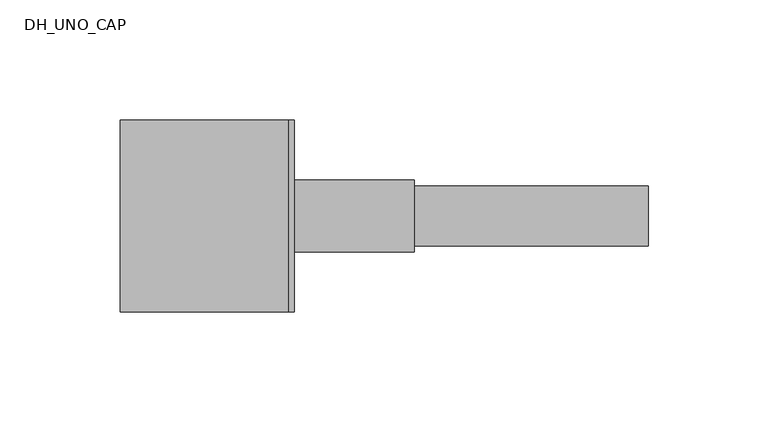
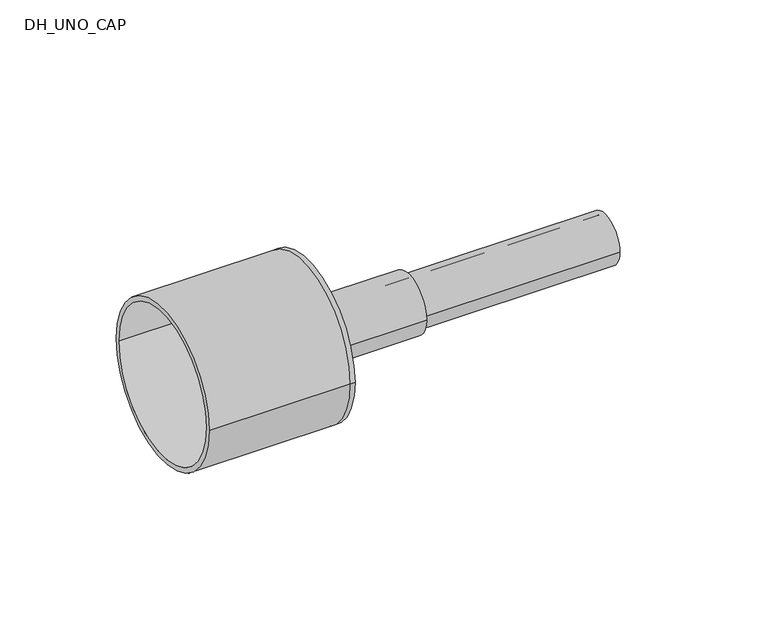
"""IFC4 building model written with IfcOpenShell, lengths in millimetres: pipe fitting geometry, DH_UNO_CAP : INSULPEX UNO 11 COOL - Rubber Cap."""

import ifcopenshell
import ifcopenshell.guid

model = None  # the IFC model being written
_history = None  # IfcOwnerHistory: only IFC2X3 demands one
_inside = {}  # id of a spatial element -> (the spatial element, [elements in it])
_under = {}  # id of a project, library or spatial element -> (it, [spatial elements below it])
_declared = {}  # id of a project -> (the project, [libraries it declares])
_typed = {}  # id of a type object -> (the type object, [elements of that type])
_made_of = {}  # id of a material, layer set ... -> (it, [elements and type objects made of it])


def new_model(schema):
    """Start an empty IFC model of exactly this schema.

    Asked for "IFC4X3", IfcOpenShell would pick the latest addendum, in which some entities
    have other attributes; the version numbers below select the first issue.
    IFC2X3 requires an IfcOwnerHistory on every rooted entity: one is made here for all.
    """
    global model, _history
    if schema == "IFC4X3":
        model = ifcopenshell.file(schema_version=(4, 3, 0, 0))
    else:
        model = ifcopenshell.file(schema=schema)
    _inside.clear()
    _under.clear()
    _declared.clear()
    _typed.clear()
    _made_of.clear()
    _history = None
    if model.schema == "IFC2X3":
        org = make("IfcOrganization", Name="unknown")
        user = make(
            "IfcPersonAndOrganization",
            ThePerson=make("IfcPerson", FamilyName="unknown"),
            TheOrganization=org,
        )
        app = make(
            "IfcApplication",
            ApplicationDeveloper=org,
            Version="unknown",
            ApplicationFullName="unknown",
            ApplicationIdentifier="unknown",
        )
        _history = make(
            "IfcOwnerHistory",
            OwningUser=user,
            OwningApplication=app,
            ChangeAction="ADDED",
            CreationDate=0,
        )
    return model


def make(cls, **values):
    """One entity of the class cls with the attributes given. An attribute that is None is left unset."""
    return model.create_entity(
        cls, **{name: value for name, value in values.items() if value is not None}
    )


def rooted(cls, **values):
    """An entity with a GlobalId (a new one), such as an element, a storey or a relation."""
    return make(cls, GlobalId=ifcopenshell.guid.new(), OwnerHistory=_history, **values)


def si_unit(unit_type, name, prefix=None):
    """IfcSIUnit, for example si_unit("LENGTHUNIT", "METRE", prefix="MILLI")."""
    return make("IfcSIUnit", UnitType=unit_type, Prefix=prefix, Name=name)


def assignment(units):
    """IfcUnitAssignment: the units of a project."""
    return None if units is None else make("IfcUnitAssignment", Units=units)


def point(xyz):
    """IfcCartesianPoint."""
    return None if xyz is None else make("IfcCartesianPoint", Coordinates=xyz)


def direction(xyz):
    """IfcDirection."""
    return None if xyz is None else make("IfcDirection", DirectionRatios=xyz)


def frame(location, z_axis=None, x_axis=None):
    """IfcAxis2Placement3D, a coordinate frame: its origin and axes. An axis left out is left unset."""
    return make(
        "IfcAxis2Placement3D",
        Location=point(location),
        Axis=direction(z_axis),
        RefDirection=direction(x_axis),
    )


def frame_2d(location, x_axis=None):
    """IfcAxis2Placement2D, a coordinate frame in the plane: its origin and x axis."""
    return make(
        "IfcAxis2Placement2D", Location=point(location), RefDirection=direction(x_axis)
    )


def origin():
    """The frame at (0, 0, 0) with its axes left unset."""
    return frame((0.0, 0.0, 0.0))


def origin_2d():
    """The frame at (0, 0) in the plane with its x axis left unset."""
    return frame_2d((0.0, 0.0))


def place(relative_to, where):
    """IfcLocalPlacement: puts the frame where relative to a parent placement (None: the world)."""
    return make(
        "IfcLocalPlacement", PlacementRelTo=relative_to, RelativePlacement=where
    )


def context(
    kind, dimensions, precision=None, world=None, true_north=None, identifier=None
):
    """IfcGeometricRepresentationContext, for example the 3D "Model" context."""
    return make(
        "IfcGeometricRepresentationContext",
        ContextIdentifier=identifier,
        ContextType=kind,
        CoordinateSpaceDimension=dimensions,
        Precision=precision,
        WorldCoordinateSystem=world,
        TrueNorth=true_north,
    )


def project(units=None, contexts=None):
    """IfcProject with its units and contexts."""
    return rooted(
        "IfcProject",
        Name="project",
        RepresentationContexts=contexts,
        UnitsInContext=assignment(units),
    )


def spatial(cls, under=None, at=None, **own):
    """A site, building, storey or space (cls), placed at a placement, below another one or the project."""
    s = rooted(cls, ObjectPlacement=at, **own)
    if under is not None:
        _under.setdefault(under.id(), (under, []))[1].append(s)
    return s


def polyline(points):
    """IfcPolyline through the points."""
    return make("IfcPolyline", Points=[point(p) for p in points])


def circle_curve(where, radius):
    """IfcCircle in the frame where."""
    return make("IfcCircle", Position=where, Radius=radius)


def trimmed(basis, trim1, trim2, sense, master):
    """IfcTrimmedCurve: the piece of a basis curve between two trims."""
    return make(
        "IfcTrimmedCurve",
        BasisCurve=basis,
        Trim1=trim1,
        Trim2=trim2,
        SenseAgreement=sense,
        MasterRepresentation=master,
    )


def segment(curve, same_sense, transition):
    """IfcCompositeCurveSegment."""
    return make(
        "IfcCompositeCurveSegment",
        Transition=transition,
        SameSense=same_sense,
        ParentCurve=curve,
    )


def composite_curve(segments, self_intersect=None):
    """IfcCompositeCurve: segments joined end to end."""
    return make("IfcCompositeCurve", Segments=segments, SelfIntersect=self_intersect)


def outline(outer, holes=None, kind="AREA"):
    """IfcArbitraryClosedProfileDef: a profile drawn as a closed curve; with holes, ...WithVoids."""
    if holes is None:
        return make("IfcArbitraryClosedProfileDef", ProfileType=kind, OuterCurve=outer)
    return make(
        "IfcArbitraryProfileDefWithVoids",
        ProfileType=kind,
        OuterCurve=outer,
        InnerCurves=holes,
    )


def extrude(swept, where, along, depth):
    """IfcExtrudedAreaSolid: the profile swept, set in the frame where, extruded along a direction by depth."""
    return make(
        "IfcExtrudedAreaSolid",
        SweptArea=swept,
        Position=where,
        ExtrudedDirection=direction(along),
        Depth=depth,
    )


def shape(context_of_items, identifier, shape_type, items):
    """IfcShapeRepresentation: the items that make up one representation, for example the "Body"."""
    return make(
        "IfcShapeRepresentation",
        ContextOfItems=context_of_items,
        RepresentationIdentifier=identifier,
        RepresentationType=shape_type,
        Items=items,
    )


def source(mapping_origin, context_of_items, identifier, shape_type, items):
    """IfcRepresentationMap: a shape defined once, which mapped items show again and again."""
    return make(
        "IfcRepresentationMap",
        MappingOrigin=mapping_origin,
        MappedRepresentation=shape(context_of_items, identifier, shape_type, items),
    )


def transform(
    local_origin,
    x_axis=None,
    y_axis=None,
    z_axis=None,
    scale=None,
    scale2=None,
    scale3=None,
    uniform=True,
):
    """IfcCartesianTransformationOperator3D, or its non-uniform kind. x_axis, y_axis, z_axis: its Axis1, 2, 3."""
    if uniform:
        return make(
            "IfcCartesianTransformationOperator3D",
            Axis1=direction(x_axis),
            Axis2=direction(y_axis),
            LocalOrigin=point(local_origin),
            Scale=scale,
            Axis3=direction(z_axis),
        )
    return make(
        "IfcCartesianTransformationOperator3DnonUniform",
        Axis1=direction(x_axis),
        Axis2=direction(y_axis),
        LocalOrigin=point(local_origin),
        Scale=scale,
        Axis3=direction(z_axis),
        Scale2=scale2,
        Scale3=scale3,
    )


def mapped(mapping_source, mapping_target):
    """IfcMappedItem: shows the shape of a source again, moved by a transform."""
    return make(
        "IfcMappedItem", MappingSource=mapping_source, MappingTarget=mapping_target
    )


def made_of(thing, what):
    """Note that an element or type object is made of a material, layer set ...; save() writes the relation."""
    if what is not None:
        _made_of.setdefault(what.id(), (what, []))[1].append(thing)
    return thing


def element(
    cls,
    number,
    at=None,
    inside=None,
    cuts=None,
    type_object=None,
    material=None,
    context=None,
    identifier="Body",
    shape_type=None,
    held_by="IfcProductDefinitionShape",
    body=None,
    shapes=None,
    **own,
):
    """One element of the class cls, such as IfcWall. Its Tag is "e" and its number.

    at: its placement. inside: the storey or other place that contains it. cuts: it is an
    opening in that element (IfcRelVoidsElement). A single representation is given by context,
    identifier, shape_type and body (its items); several are given by shapes. held_by: the class
    of the entity that holds the representations. save() writes the other relations.
    """
    e = rooted(cls, Tag="e%d" % number, ObjectPlacement=at, **own)
    if body is not None:
        shapes = [shape(context, identifier, shape_type, body)]
    if shapes is not None:
        e.Representation = make(held_by, Representations=shapes)
    if inside is not None:
        _inside.setdefault(inside.id(), (inside, []))[1].append(e)
    if cuts is not None:
        rooted(
            "IfcRelVoidsElement", RelatingBuildingElement=cuts, RelatedOpeningElement=e
        )
    if type_object is not None:
        _typed.setdefault(type_object.id(), (type_object, []))[1].append(e)
    return made_of(e, material)


def aggregate(whole, parts):
    """IfcRelAggregates: a whole, such as a stair, and the parts it consists of."""
    return rooted("IfcRelAggregates", RelatingObject=whole, RelatedObjects=parts)


def save(model, path):
    """Write the relations noted so far, then the file.

    IfcRelAggregates (storeys below a building ...), IfcRelContainedInSpatialStructure (elements
    in a storey), IfcRelDefinesByType, IfcRelAssociatesMaterial and IfcRelDeclares: one each for
    every whole, place, type object, material and project.
    """
    for whole, parts in _under.values():
        aggregate(whole, parts)
    for where, things in _inside.values():
        rooted(
            "IfcRelContainedInSpatialStructure",
            RelatedElements=things,
            RelatingStructure=where,
        )
    for kind, things in _typed.values():
        rooted("IfcRelDefinesByType", RelatedObjects=things, RelatingType=kind)
    for what, things in _made_of.values():
        rooted("IfcRelAssociatesMaterial", RelatedObjects=things, RelatingMaterial=what)
    for by, libraries in _declared.values():
        rooted("IfcRelDeclares", RelatingContext=by, RelatedDefinitions=libraries)
    model.write(path)


def plane_surface(at):
    """IfcPlane: the flat surface through the origin of the frame at, square to its z axis."""
    return make("IfcPlane", Position=at)


def cylinder_surface(at, radius):
    """IfcCylindricalSurface: all points at the distance radius from the z axis of the frame at."""
    return make("IfcCylindricalSurface", Position=at, Radius=radius)


def revolved_surface(curve, axis_point, axis_direction):
    """IfcSurfaceOfRevolution: the curve turned about the line through axis_point along axis_direction."""
    return make(
        "IfcSurfaceOfRevolution",
        SweptCurve=make("IfcArbitraryOpenProfileDef", ProfileType="CURVE", Curve=curve),
        AxisPosition=make("IfcAxis1Placement", Location=point(axis_point), Axis=direction(axis_direction)),
    )


def advanced_brep(points, edges, surfaces, faces):
    """IfcAdvancedBrep: a solid bounded by faces that lie on surfaces and meet in shared edges.

    An edge is (start, end): straight between two places in points (the first is 0);
    or (start, end, curve); or (start, end, curve, False) where it runs against its curve.
    A face is (place in surfaces, loops), or (place, loops, False) where it looks against
    its surface's normal. A loop lists edges by number (the first is 1), with a minus sign
    where the edge is run from its end to its start. The first loop is the outer one.
    """
    corners = [point(p) for p in points]
    vertices = [make("IfcVertexPoint", VertexGeometry=c) for c in corners]
    made = []
    for start, end, *more in edges:
        made.append(
            make(
                "IfcEdgeCurve",
                EdgeStart=vertices[start],
                EdgeEnd=vertices[end],
                EdgeGeometry=more[0] if more else make("IfcPolyline", Points=[corners[start], corners[end]]),
                SameSense=more[1] if len(more) > 1 else True,
            )
        )
    hull = []
    for where, loops, *sense in faces:
        bounds = []
        for j, loop in enumerate(loops):
            ring = [make("IfcOrientedEdge", EdgeElement=made[abs(k) - 1], Orientation=k > 0) for k in loop]
            bounds.append(
                make(
                    "IfcFaceOuterBound" if j == 0 else "IfcFaceBound",
                    Bound=make("IfcEdgeLoop", EdgeList=ring),
                    Orientation=True,
                )
            )
        hull.append(make("IfcAdvancedFace", Bounds=bounds, FaceSurface=surfaces[where], SameSense=sense[0] if sense else True))
    return make("IfcAdvancedBrep", Outer=make("IfcClosedShell", CfsFaces=hull))


def dh_uno_cap_0b3657b0(model_context):
    return source(origin(), model_context, "Body", "SolidModel", [
        extrude(outline(composite_curve([segment(trimmed(circle_curve(origin_2d(), 12.5), [point((-12.5, 0.0))], [point((12.5, 0.0))], False, "CARTESIAN"), True, "CONTINUOUS"), segment(trimmed(circle_curve(origin_2d(), 12.5), [point((12.5, 0.0))], [point((-12.5, 0.0))], False, "CARTESIAN"), True, "CONTINUOUS")], self_intersect=False), holes=[composite_curve([segment(trimmed(circle_curve(origin_2d(), 10.2), [point((-10.2, 0.0))], [point((10.2, 0.0))], True, "CARTESIAN"), True, "CONTINUOUS"), segment(trimmed(circle_curve(origin_2d(), 10.2), [point((10.2, 0.0))], [point((-10.2, 0.0))], True, "CARTESIAN"), True, "CONTINUOUS")], self_intersect=False)]), frame((0.0, 0.0, 0.0), z_axis=(1.0, 0.0, 0.0), x_axis=(0.0, 1.0, 0.0)), (0.0, 0.0, 1.0), 150.0),
        advanced_brep(
        [(-70.0, -40.0, 0.0), (-70.0, 40.0, 0.0), (-70.0, -37.5, 0.0), (-70.0, 37.5, 0.0), (0.0, -37.5, 0.0), (0.0, 37.5, 0.0), (0.0, -40.0, 0.0), (0.0, 40.0, 0.0), (0.0, 12.5, 0.0), (0.0, -12.5, 0.0), (2.5, -40.0, 0.0), (2.5, 40.0, 0.0), (2.5, -12.5, 0.0), (2.5, 12.5, 0.0)],
        [
            (0, 1, circle_curve(frame((-70.0, 0.0, 0.0), z_axis=(-1.0, 0.0, 0.0), x_axis=(0.0, 1.0, 0.0)), 40.0)),
            (1, 0, circle_curve(frame((-70.0, 0.0, 0.0), z_axis=(-1.0, 0.0, 0.0), x_axis=(0.0, 1.0, 0.0)), 40.0)),
            (2, 3, circle_curve(frame((-70.0, 0.0, 0.0), z_axis=(1.0, 0.0, 0.0), x_axis=(0.0, 1.0, 0.0)), 37.5)),
            (3, 2, circle_curve(frame((-70.0, 0.0, 0.0), z_axis=(1.0, 0.0, 0.0), x_axis=(0.0, 1.0, 0.0)), 37.5)),
            (2, 4),
            (4, 5, circle_curve(frame((0.0, 0.0, 0.0), z_axis=(1.0, 0.0, 0.0), x_axis=(0.0, 1.0, 0.0)), 37.5)),
            (5, 3),
            (5, 4, circle_curve(frame((0.0, 0.0, 0.0), z_axis=(1.0, 0.0, 0.0), x_axis=(0.0, 1.0, 0.0)), 37.5)),
            (0, 6),
            (6, 7, circle_curve(frame((0.0, 0.0, 0.0), z_axis=(-1.0, 0.0, 0.0), x_axis=(0.0, 1.0, 0.0)), 40.0)),
            (7, 1),
            (7, 6, circle_curve(frame((0.0, 0.0, 0.0), z_axis=(-1.0, 0.0, 0.0), x_axis=(0.0, 1.0, 0.0)), 40.0)),
            (8, 9, circle_curve(frame((0.0, 0.0, 0.0), z_axis=(1.0, 0.0, 0.0), x_axis=(0.0, 1.0, 0.0)), 12.5)),
            (9, 8, circle_curve(frame((0.0, 0.0, 0.0), z_axis=(1.0, 0.0, 0.0), x_axis=(0.0, 1.0, 0.0)), 12.5)),
            (10, 11, circle_curve(frame((2.5, 0.0, 0.0), z_axis=(1.0, 0.0, 0.0), x_axis=(0.0, 1.0, 0.0)), 40.0)),
            (11, 10, circle_curve(frame((2.5, 0.0, 0.0), z_axis=(1.0, 0.0, 0.0), x_axis=(0.0, 1.0, 0.0)), 40.0)),
            (12, 13, circle_curve(frame((2.5, 0.0, 0.0), z_axis=(-1.0, 0.0, 0.0), x_axis=(0.0, 1.0, 0.0)), 12.5)),
            (13, 12, circle_curve(frame((2.5, 0.0, 0.0), z_axis=(-1.0, 0.0, 0.0), x_axis=(0.0, 1.0, 0.0)), 12.5)),
            (11, 7),
            (6, 10),
            (8, 13),
            (12, 9),
        ],
        [
            plane_surface(frame((-70.0, 0.0, 0.0), z_axis=(-1.0, 0.0, 0.0), x_axis=(0.0, 0.0, 1.0))),
            revolved_surface(polyline([(0.0, 37.5, 0.0), (-70.0, 37.5, 0.0)]), (-70.0, 0.0, 0.0), (1.0, 0.0, 0.0)),
            cylinder_surface(frame((-70.0, 0.0, 0.0), z_axis=(-1.0, 0.0, 0.0), x_axis=(0.0, 1.0, 0.0)), 40.0),
            plane_surface(frame((0.0, 0.0, 0.0), z_axis=(-1.0, 0.0, 0.0), x_axis=(0.0, 0.0, 1.0))),
            plane_surface(frame((2.5, 0.0, 0.0), z_axis=(1.0, 0.0, 0.0), x_axis=(0.0, 0.0, 1.0))),
            cylinder_surface(frame((0.0, 0.0, 0.0), z_axis=(-1.0, 0.0, 0.0), x_axis=(0.0, 1.0, 0.0)), 40.0),
            revolved_surface(polyline([(0.0, 12.5, 0.0), (2.5, 12.5, 0.0)]), (0.0, 0.0, 0.0), (-1.0, 0.0, 0.0)),
        ],
        [
            (0, [[1, 2], [3, 4]]),
            (1, [[-3, 5, 6, 7]]),
            (1, [[-4, -7, 8, -5]]),
            (2, [[-1, 9, 10, 11]]),
            (2, [[-2, -11, 12, -9]]),
            (3, [[-6, -8], [13, 14]]),
            (4, [[15, 16], [17, 18]]),
            (5, [[-16, 19, -10, 20]]),
            (5, [[-15, -20, -12, -19]]),
            (6, [[21, -17, 22, -13]]),
            (6, [[-21, -14, -22, -18]]),
        ],
    ),
        extrude(outline(composite_curve([segment(trimmed(circle_curve(origin_2d(), 15.0), [point((-15.0, 0.0))], [point((15.0, 0.0))], False, "CARTESIAN"), True, "CONTINUOUS"), segment(trimmed(circle_curve(origin_2d(), 15.0), [point((15.0, 0.0))], [point((-15.0, 0.0))], False, "CARTESIAN"), True, "CONTINUOUS")], self_intersect=False), holes=[composite_curve([segment(trimmed(circle_curve(origin_2d(), 12.5), [point((-12.5, 0.0))], [point((12.5, 0.0))], True, "CARTESIAN"), True, "CONTINUOUS"), segment(trimmed(circle_curve(origin_2d(), 12.5), [point((12.5, 0.0))], [point((-12.5, 0.0))], True, "CARTESIAN"), True, "CONTINUOUS")], self_intersect=False)]), frame((2.5, 0.0, 0.0), z_axis=(1.0, 0.0, 0.0), x_axis=(0.0, 1.0, 0.0)), (0.0, 0.0, 1.0), 50.0),
    ])


if __name__ == "__main__":
    model = new_model("IFC4")
    model_context = context("Model", 3, world=origin())
    ifc_project = project(units=[si_unit("LENGTHUNIT", "METRE", prefix="MILLI")], contexts=[model_context])
    site = spatial("IfcSite", under=ifc_project)
    building = spatial("IfcBuilding", under=site)
    placement = place(None, origin())
    dh_uno_cap_shape = dh_uno_cap_0b3657b0(model_context)
    element("IfcPipeFitting", 1, ObjectType="DH_UNO_CAP : INSULPEX UNO 11 COOL - Rubber Cap", at=placement, inside=building, context=model_context, shape_type="MappedRepresentation", body=[
        mapped(dh_uno_cap_shape, transform((0.0, 0.0, 0.0), x_axis=(1.0, 0.0, 0.0), y_axis=(0.0, 1.0, 0.0), z_axis=(0.0, 0.0, 1.0))),
    ])
    save(model, "model.ifc")
